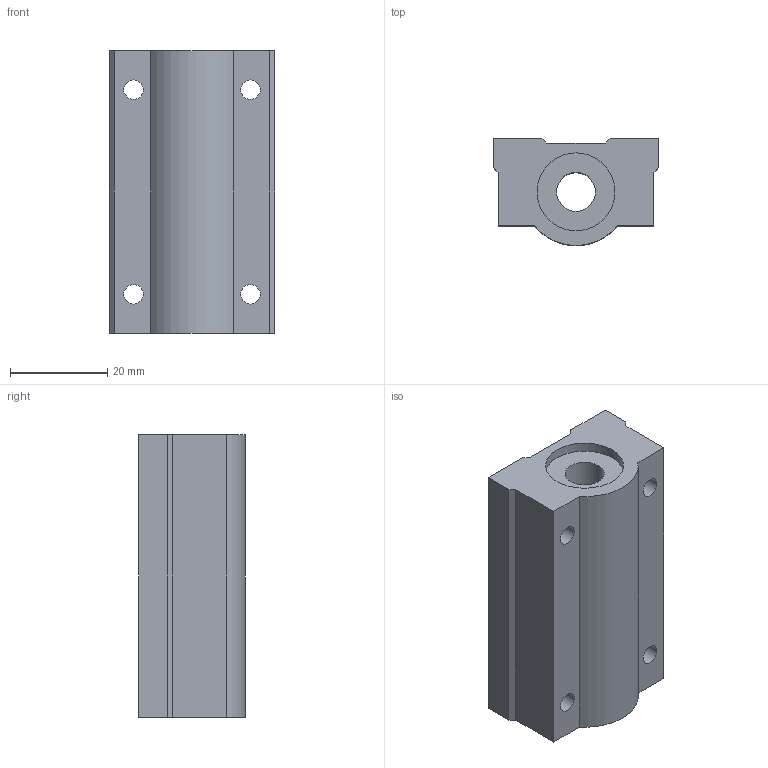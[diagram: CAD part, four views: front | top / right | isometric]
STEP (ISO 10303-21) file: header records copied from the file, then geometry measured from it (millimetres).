
FILE_DESCRIPTION((''),'2;1');
FILE_NAME('C:\Documents and Settings\ｿﾀﾀ蠑ｷ1\ｹﾙﾅﾁ ﾈｭｸ饅\ｺﾎﾇｰﾆﾄﾀﾏ\ﾁｦﾇｰ\SCE__WUU\SCE8WUU.stp','2005-06-22T15:47:43',('ｿﾀﾀ蠑ｷ1'),(''),'Autodesk Inventor 9','Autodesk Inventor 9','');
FILE_SCHEMA(('AUTOMOTIVE_DESIGN { 1 0 10303 214 1 1 1 1 }'));
Length unit declared in the file: millimetre
Products named in the file (1): SCE__UU
Bounding box: 34 x 21.96 x 58 mm (x, y, z)
Volume: 31722.7 mm3; surface area: 9660.2 mm2
Topology: 1 solids, 1 shells, 32 faces, 84 edges, 56 vertices
Faces by surface type: plane 17, bspline 8, cylinder 7
Entity records: 1145 total; most frequent: CARTESIAN_POINT 309, ORIENTED_EDGE 168, DIRECTION 164, EDGE_CURVE 84, VERTEX_POINT 56, AXIS2_PLACEMENT_3D 55, VECTOR 54, LINE 54
